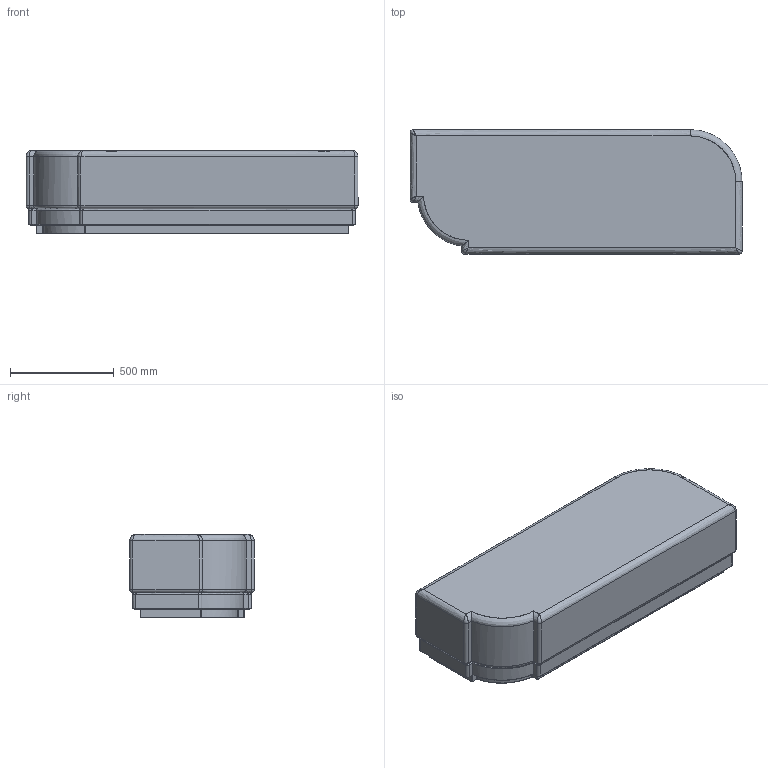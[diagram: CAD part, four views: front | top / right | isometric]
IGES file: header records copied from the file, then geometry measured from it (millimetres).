
Global section: file name: C:\Users\market02\Desktop\RYAN\3D\Majordome\exportation\FMAJOPO160_POUF_MAJORDOME\FMAJOPO160_POUF_MAJORDOME.igs; native system: Rhinoceros ( Dec 14 2021 ); preprocessor: Trout Lake IGES 012 Dec 14 2021; date: 220311.142048; units: millimetre
Bounding box: 1600 x 600 x 400.03 mm (x, y, z)
Surface area: 6521661.4 mm2 (no closed solid volume)
Topology: 0 solids, 0 shells, 106 faces, 793 edges, 785 vertices
Faces by surface type: bspline 106
